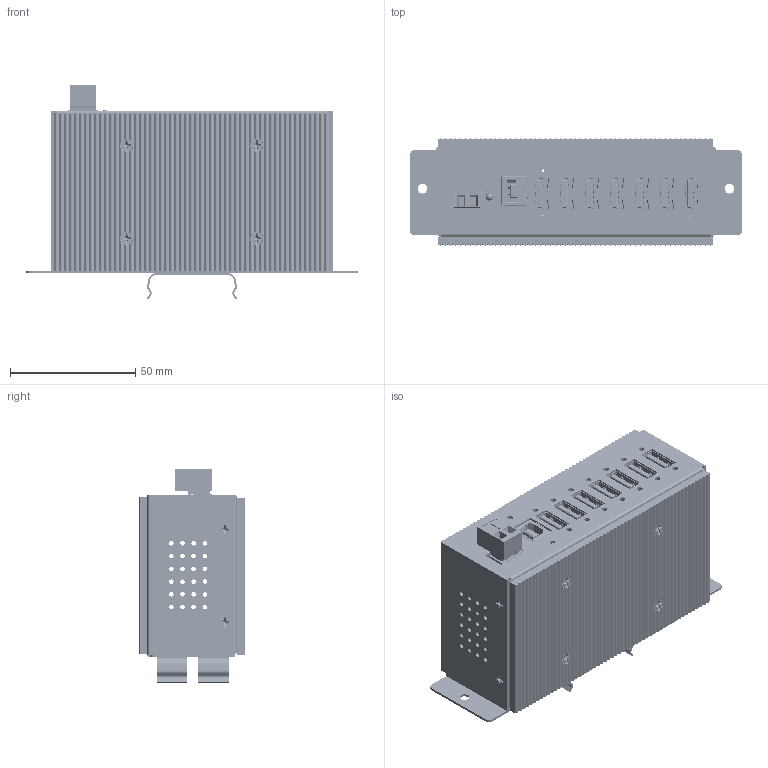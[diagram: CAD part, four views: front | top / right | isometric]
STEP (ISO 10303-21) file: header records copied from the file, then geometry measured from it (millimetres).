
FILE_DESCRIPTION(/* description */ (''),/* implementation_level */ '2;1');
FILE_NAME(/* name */ 'CG-U27PHT v5.step',/* time_stamp */ '2023-11-28T14:24:35-05:00',/* author */ (''),/* organization */ (''),/* preprocessor_version */ 'ST-DEVELOPER v20',/* originating_system */ 'Autodesk Translation Framework v12.14.0.127',/* authorisation */ '');
FILE_SCHEMA (('AUTOMOTIVE_DESIGN { 1 0 10303 214 3 1 1 }'));
Products named in the file (10): CG-U27PHT; Connector green phoenix 2pines male 5.08 v6; DinRClip 35mm rail 25mm holes v3; Component45; Heatsink-HHT-Larger; M3x0.5.5 China 120ang METRIC 18-8 SS FLAT HEAD PHIL MACHINE SCREW v2; M3x0.5.5 China 120ang METRIC 18-8 SS FLAT HEAD PHIL MACHINE SCREW v2 
v1(Mirror); M3x0.5.5 China 120ang METRIC 18-8 SS FLAT HEAD PHIL MACHINE SCREW v2 
v1(Mirror) (1); M3x0.5.5 China 120ang METRIC 18-8 SS FLAT HEAD PHIL MACHINE SCREW v2 
v1(Mirror) (2); M3x0.5.5 China 120ang METRIC 18-8 SS FLAT HEAD PHIL MACHINE SCREW v2 
v1(Mirror) (3)
Assembly tree (14 placements, depth 2):
  CG-U27PHT
    Connector green phoenix 2pines male 5.08 v6
    DinRClip 35mm rail 25mm holes v3  x2
    Component45
    Heatsink-HHT-Larger  x2
    M3x0.5.5 China 120ang METRIC 18-8 SS FLAT HEAD PHIL MACHINE SCREW v2  x4
    M3x0.5.5 China 120ang METRIC 18-8 SS FLAT HEAD PHIL MACHINE SCREW v2 
v1(Mirror)
    M3x0.5.5 China 120ang METRIC 18-8 SS FLAT HEAD PHIL MACHINE SCREW v2 
v1(Mirror) (1)
    M3x0.5.5 China 120ang METRIC 18-8 SS FLAT HEAD PHIL MACHINE SCREW v2 
v1(Mirror) (2)
    M3x0.5.5 China 120ang METRIC 18-8 SS FLAT HEAD PHIL MACHINE SCREW v2 
v1(Mirror) (3)
Bounding box: 132.73 x 42.75 x 85.84 mm (x, y, z)
Volume: 95772.6 mm3; surface area: 121516.5 mm2
Topology: 14 solids, 82 shells, 8633 faces, 25276 edges, 16367 vertices
Faces by surface type: plane 6537, cylinder 1867, cone 150, bspline 76, sphere 3
Full cylindrical faces by diameter (mm): 1.6 x2, 1.8 x48, 2.271 x16, 2.323 x12, 2.35 x24, 2.529 x12, 2.89 x1, 3 x88, 3.1 x1, 3.2 x4, 3.5 x8, 3.565 x4, 3.86 x2, 3.9 x2, 4.2 x4
Entity records: 288192 total; most frequent: CARTESIAN_POINT 66197, ORIENTED_EDGE 48294, DIRECTION 43693, EDGE_CURVE 24147, LINE 19679, VECTOR 19679, VERTEX_POINT 15634, AXIS2_PLACEMENT_3D 12007
